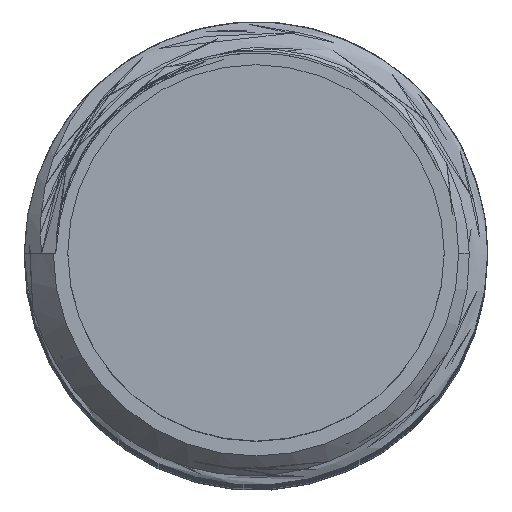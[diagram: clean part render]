
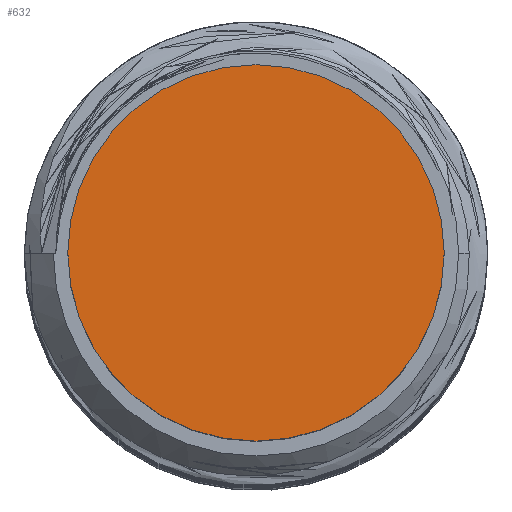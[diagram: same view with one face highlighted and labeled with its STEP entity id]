
A CAD part, top view. The second image highlights one B-rep face of the part: STEP entity #632.
In plain terms, the highlighted planar face has unit normal (0, 0, 1).
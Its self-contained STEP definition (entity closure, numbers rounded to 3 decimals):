
#632 = ADVANCED_FACE ( 'NONE', ( #7595 ), #6750, .T. ) ;
#789 = VERTEX_POINT ( 'NONE', #8034 ) ;
#1115 = CARTESIAN_POINT ( 'NONE',  ( 0., 0., 60. ) ) ;
#1147 = EDGE_CURVE ( 'NONE', #789, #4807, #4430, .T. ) ;
#1167 = EDGE_LOOP ( 'NONE', ( #10235, #2221 ) ) ;
#1718 = CARTESIAN_POINT ( 'NONE',  ( 0., 0., 60. ) ) ;
#1819 = DIRECTION ( 'NONE',  ( 1., 0., 0. ) ) ;
#2221 = ORIENTED_EDGE ( 'NONE', *, *, #7462, .T. ) ;
#2776 = DIRECTION ( 'NONE',  ( 0., 0., 1. ) ) ;
#2861 = DIRECTION ( 'NONE',  ( 1., 0., 0. ) ) ;
#3361 = CIRCLE ( 'NONE', #9633, 3.25 ) ;
#4154 = CARTESIAN_POINT ( 'NONE',  ( -3.25, 0., 60. ) ) ;
#4354 = CARTESIAN_POINT ( 'NONE',  ( 0., 0., 60. ) ) ;
#4430 = CIRCLE ( 'NONE', #9631, 3.25 ) ;
#4551 = DIRECTION ( 'NONE',  ( 0., 0., 1. ) ) ;
#4807 = VERTEX_POINT ( 'NONE', #4154 ) ;
#6750 = PLANE ( 'NONE',  #9304 ) ;
#6837 = DIRECTION ( 'NONE',  ( 0., 0., 1. ) ) ;
#7462 = EDGE_CURVE ( 'NONE', #4807, #789, #3361, .T. ) ;
#7595 = FACE_OUTER_BOUND ( 'NONE', #1167, .T. ) ;
#8034 = CARTESIAN_POINT ( 'NONE',  ( 3.25, 0., 60. ) ) ;
#8581 = DIRECTION ( 'NONE',  ( 1., 0., 0. ) ) ;
#9304 = AXIS2_PLACEMENT_3D ( 'NONE', #1115, #4551, #2861 ) ;
#9631 = AXIS2_PLACEMENT_3D ( 'NONE', #1718, #6837, #8581 ) ;
#9633 = AXIS2_PLACEMENT_3D ( 'NONE', #4354, #2776, #1819 ) ;
#10235 = ORIENTED_EDGE ( 'NONE', *, *, #1147, .T. ) ;
